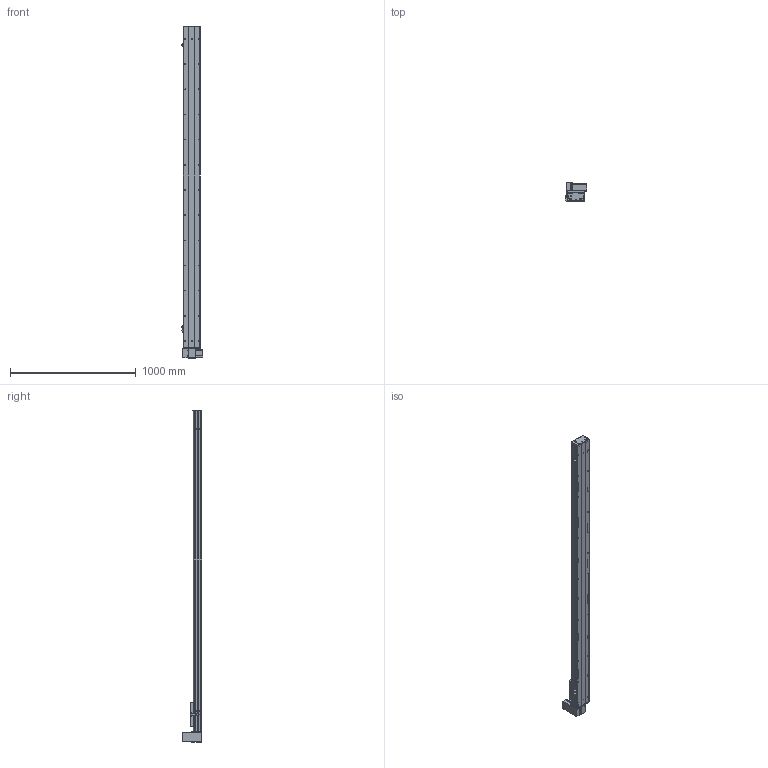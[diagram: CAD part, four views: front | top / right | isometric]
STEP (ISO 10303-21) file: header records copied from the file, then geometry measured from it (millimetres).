
FILE_DESCRIPTION (( 'STEP AP203' ), '1' );
FILE_NAME ('Y135CB-D90-S2250-UR-P400W.STEP', '2020-02-18T06:30:20', ( '微软用户' ), ( '微软中国' ), 'SwSTEP 2.0', 'SolidWorks 2017', '' );
FILE_SCHEMA (( 'CONFIG_CONTROL_DESIGN' ));
Length unit declared in the file: millimetre
Products named in the file (18): 5C--俋欶; Y135C-陔俋离換覜結え-; 0B-埴倛裔啣; C-雄赽釱--; 0B-源倛裔啣; Y10B--々湍喘謫眊--666; 0B-萇儂楊擘啣; Y10B-耜蚾蟀諉啣----; san松下电机400不带刹车----; 00B-俋欶BM--; 5CB --掛极耜裔啣-; Y135CB-D90-S2250-UR-P400W; C-詩湍揤踡え-陔; Y135CB-耜裔; 135CB--詩湍-CE; 135CB---遴掛极.-; Y100-135俋离換覜ん--; 35CB---喘謫眊楊擘啣
Assembly tree (21 placements, depth 2):
  Y135CB-D90-S2250-UR-P400W
    Y135CB-耜裔
    135CB---遴掛极.-
    35CB---喘謫眊楊擘啣
    0B-埴倛裔啣
    0B-源倛裔啣
    0B-萇儂楊擘啣
    san松下电机400不带刹车----
    5CB --掛极耜裔啣-  x2
    C-詩湍揤踡え-陔  x2
    135CB--詩湍-CE
    Y100-135俋离換覜ん--  x3
    Y135C-陔俋离換覜結え-
    5C--俋欶
    C-雄赽釱--
    Y10B--々湍喘謫眊--666
    Y10B-耜蚾蟀諉啣----
    00B-俋欶BM--
Bounding box: 167.5 x 158.7 x 2638 mm (x, y, z)
Volume: 7632648.7 mm3; surface area: 3019346.9 mm2
Topology: 21 solids, 21 shells, 969 faces, 2635 edges, 1746 vertices
Faces by surface type: cylinder 497, plane 456, cone 16
Entity records: 30561 total; most frequent: DIRECTION 5079, CARTESIAN_POINT 5076, ORIENTED_EDGE 4746, EDGE_CURVE 2373, AXIS2_PLACEMENT_3D 1861, VERTEX_POINT 1574, LINE 1357, VECTOR 1357
